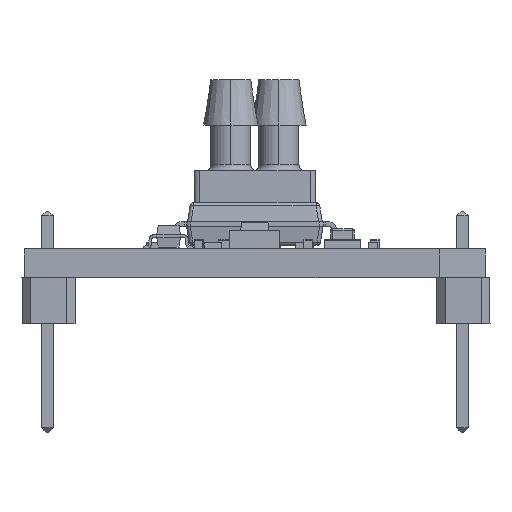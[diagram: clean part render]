
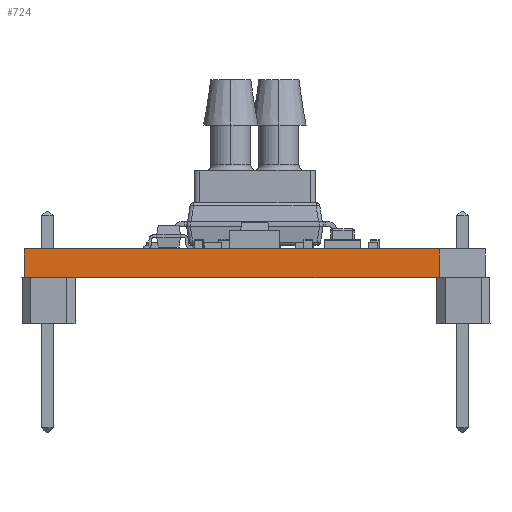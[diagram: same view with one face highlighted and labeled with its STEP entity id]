
A CAD part, front view. The second image highlights one B-rep face of the part: STEP entity #724.
In plain terms, the highlighted planar face has unit normal (0, -1, 0).
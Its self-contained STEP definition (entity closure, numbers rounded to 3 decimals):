
#699 = VERTEX_POINT('',#700);
#700 = CARTESIAN_POINT('',(21.59,-3.81,0.));
#706 = EDGE_CURVE('',#707,#699,#709,.T.);
#707 = VERTEX_POINT('',#708);
#708 = CARTESIAN_POINT('',(21.59,-3.81,-1.59));
#709 = LINE('',#710,#711);
#710 = CARTESIAN_POINT('',(21.59,-3.81,-1.59));
#711 = VECTOR('',#712,1.);
#712 = DIRECTION('',(0.,0.,1.));
#724 = ADVANCED_FACE('',(#725),#750,.T.);
#725 = FACE_BOUND('',#726,.T.);
#726 = EDGE_LOOP('',(#727,#728,#736,#744));
#727 = ORIENTED_EDGE('',*,*,#706,.T.);
#728 = ORIENTED_EDGE('',*,*,#729,.T.);
#729 = EDGE_CURVE('',#699,#730,#732,.T.);
#730 = VERTEX_POINT('',#731);
#731 = CARTESIAN_POINT('',(-1.27,-3.81,0.));
#732 = LINE('',#733,#734);
#733 = CARTESIAN_POINT('',(21.59,-3.81,0.));
#734 = VECTOR('',#735,1.);
#735 = DIRECTION('',(-1.,0.,0.));
#736 = ORIENTED_EDGE('',*,*,#737,.F.);
#737 = EDGE_CURVE('',#738,#730,#740,.T.);
#738 = VERTEX_POINT('',#739);
#739 = CARTESIAN_POINT('',(-1.27,-3.81,-1.59));
#740 = LINE('',#741,#742);
#741 = CARTESIAN_POINT('',(-1.27,-3.81,-1.59));
#742 = VECTOR('',#743,1.);
#743 = DIRECTION('',(0.,0.,1.));
#744 = ORIENTED_EDGE('',*,*,#745,.F.);
#745 = EDGE_CURVE('',#707,#738,#746,.T.);
#746 = LINE('',#747,#748);
#747 = CARTESIAN_POINT('',(21.59,-3.81,-1.59));
#748 = VECTOR('',#749,1.);
#749 = DIRECTION('',(-1.,0.,0.));
#750 = PLANE('',#751);
#751 = AXIS2_PLACEMENT_3D('',#752,#753,#754);
#752 = CARTESIAN_POINT('',(21.59,-3.81,-1.59));
#753 = DIRECTION('',(0.,-1.,0.));
#754 = DIRECTION('',(-1.,0.,0.));
